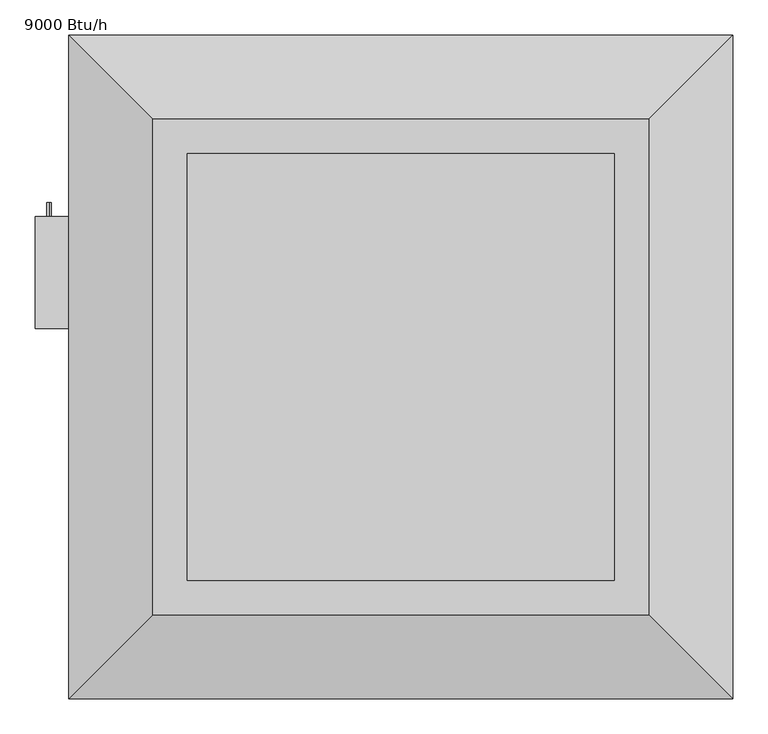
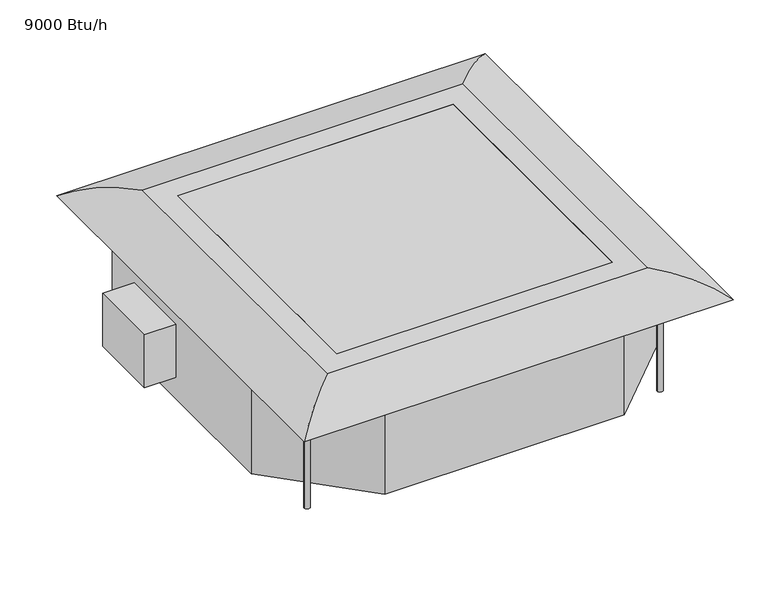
"""IFC4 building model written with IfcOpenShell, lengths in millimetres: proxy geometry, Lennox-VRF-Ceiling_Compact-Cassette-V33A-2P_Series : 9000 Btu/h."""

from ifc_helpers import new_model, si_unit, point, frame, frame_2d, origin, origin_with_axes, place, context, project, spatial, polyline, circle_curve, ellipse_curve, trimmed, segment, composite_curve, outline, extrude, source, transform, mapped, element, save
from ifc_brep_helpers import plane_surface, cylinder_surface, advanced_brep


def proxy_9000_btu_h_d08c018a(model_context):
    return source(origin(), model_context, "Body", "SolidModel", [
        extrude(outline(composite_curve([segment(trimmed(circle_curve(frame_2d((-130.0, -502.5)), 3.175), [point((-126.825, -502.5))], [point((-133.175, -502.5))], False, "CARTESIAN"), True, "CONTINUOUS"), segment(trimmed(circle_curve(frame_2d((-130.0, -502.5)), 3.175), [point((-133.175, -502.5))], [point((-126.825, -502.5))], False, "CARTESIAN"), True, "CONTINUOUS")], self_intersect=False)), frame((0.0, 214.8, 0.0), z_axis=(0.0, 1.0, 0.0), x_axis=(0.0, 0.0, 1.0)), (0.0, 0.0, 1.0), 20.0),
        extrude(outline(polyline([(-522.5, 54.8), (-522.5, 214.8), (-452.5, 214.8), (-452.5, 54.8), (-522.5, 54.8)])), frame((0.0, 0.0, -178.0), z_axis=(0.0, 0.0, 1.0), x_axis=(1.0, 0.0, 0.0)), (0.0, 0.0, 1.0), 124.0),
        extrude(outline(composite_curve([segment(trimmed(circle_curve(frame_2d((0.0, -6.35)), 6.35), [point((0.0, -12.7000001))], [point((0.0, 0.0))], False, "CARTESIAN"), True, "CONTINUOUS"), segment(trimmed(circle_curve(frame_2d((0.0, -6.35)), 6.35), [point((0.0, 0.0))], [point((0.0, -12.7000001))], False, "CARTESIAN"), True, "CONTINUOUS")], self_intersect=False)), frame((-326.2883897, 325.3070798, -146.0), z_axis=(-0.20791169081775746, 0.9781476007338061, 0.0), x_axis=(0.0, 0.0, -1.0)), (0.0, 0.0, 1.0), 50.0),
        extrude(outline(composite_curve([segment(trimmed(circle_curve(frame_2d((-155.0, 285.5)), 15.875), [point((-155.0, 301.375))], [point((-155.0, 269.625))], False, "CARTESIAN"), True, "CONTINUOUS"), segment(trimmed(circle_curve(frame_2d((-155.0, 285.5)), 15.875), [point((-155.0, 269.625))], [point((-155.0, 301.375))], False, "CARTESIAN"), True, "CONTINUOUS")], self_intersect=False)), frame((0.0, 360.7767013, 0.0), z_axis=(0.0, 1.0, 0.0), x_axis=(0.0, 0.0, 1.0)), (0.0, 0.0, 1.0), 59.7232987),
        advanced_brep(
        [(-384.15, -339.5, -21.0), (-396.85, -339.5, -21.0), (-384.15, -339.5, -264.0), (-396.85, -339.5, -264.0), (-384.15, -339.5, -41.0), (-396.85, -339.5, -41.0), (-396.85, -339.5, -47.35), (-384.15, -339.5, -47.35), (-367.9974747, -369.5, -41.0), (-341.8875034, -343.3900287, -41.0), (-391.3849781, -293.892554, -41.0), (-420.5, -323.007576, -41.0), (-420.5, -339.5, -41.0), (-390.5, -369.5, -41.0), (-367.9974747, -369.5, -47.35), (-390.5, -369.5, -47.35), (-420.5, -339.5, -47.35), (-420.5, -323.007576, -47.35), (-391.3849781, -293.892554, -47.35), (-341.8875034, -343.3900287, -47.35)],
        [
            (0, 1, circle_curve(frame((-390.5, -339.5, -21.0), z_axis=(0.0, 0.0, 1.0), x_axis=(-1.0, 0.0, 0.0)), 6.35)),
            (1, 0, circle_curve(frame((-390.5, -339.5, -21.0), z_axis=(0.0, 0.0, 1.0), x_axis=(-1.0, 0.0, 0.0)), 6.35)),
            (2, 3, circle_curve(frame((-390.5, -339.5, -264.0), z_axis=(0.0, 0.0, -1.0), x_axis=(-1.0, 0.0, 0.0)), 6.35)),
            (3, 2, circle_curve(frame((-390.5, -339.5, -264.0), z_axis=(0.0, 0.0, -1.0), x_axis=(-1.0, 0.0, 0.0)), 6.35)),
            (0, 4),
            (4, 5, circle_curve(frame((-390.5, -339.5, -41.0), z_axis=(0.0, 0.0, 1.0), x_axis=(-1.0, 0.0, 0.0)), 6.35)),
            (5, 1),
            (3, 6),
            (6, 7, circle_curve(frame((-390.5, -339.5, -47.35), z_axis=(0.0, 0.0, -1.0), x_axis=(-1.0, 0.0, 0.0)), 6.35)),
            (7, 2),
            (5, 4, circle_curve(frame((-390.5, -339.5, -41.0), z_axis=(0.0, 0.0, 1.0), x_axis=(-1.0, 0.0, 0.0)), 6.35)),
            (7, 6, circle_curve(frame((-390.5, -339.5, -47.35), z_axis=(0.0, 0.0, -1.0), x_axis=(-1.0, 0.0, 0.0)), 6.35)),
            (8, 9),
            (9, 10),
            (10, 11),
            (11, 12),
            (12, 13),
            (13, 8),
            (14, 15),
            (15, 16),
            (16, 17),
            (17, 18),
            (18, 19),
            (19, 14),
            (8, 14),
            (19, 9),
            (18, 10),
            (17, 11),
            (16, 12),
            (15, 13),
        ],
        [
            plane_surface(frame((-396.85, -339.5, -21.0), z_axis=(0.0, 0.0, 1.0), x_axis=(0.0, -1.0, 0.0))),
            plane_surface(frame((-396.85, -339.5, -264.0), z_axis=(0.0, 0.0, -1.0), x_axis=(0.0, 1.0, 0.0))),
            cylinder_surface(frame((-390.5, -339.5, -264.0), z_axis=(0.0, 0.0, 1.0), x_axis=(-1.0, 0.0, 0.0)), 6.35),
            plane_surface(frame((343.5046828, -342.2177851, -41.0), z_axis=(0.0, 0.0, 1.0), x_axis=(-0.707106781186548, -0.7071067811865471, 0.0))),
            plane_surface(frame((343.5046828, -342.2177851, -47.35), z_axis=(0.0, 0.0, -1.0), x_axis=(0.707106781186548, 0.7071067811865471, 0.0))),
            plane_surface(frame((-367.9974747, -369.5, -41.0), z_axis=(0.7071067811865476, -0.7071067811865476, 0.0), x_axis=(0.0, 0.0, -1.0))),
            plane_surface(frame((-341.8875034, -343.3900287, -41.0), z_axis=(0.7071067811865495, 0.7071067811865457, 0.0), x_axis=(0.0, 0.0, -1.0))),
            plane_surface(frame((-391.3849781, -293.892554, -41.0), z_axis=(-0.7071067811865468, 0.7071067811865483, 0.0), x_axis=(0.0, 0.0, -1.0))),
            plane_surface(frame((-420.5, -323.007576, -41.0), z_axis=(-1.0, 0.0, 0.0), x_axis=(0.0, 0.0, -1.0))),
            plane_surface(frame((-420.5, -339.5, -41.0), z_axis=(-0.7071067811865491, -0.707106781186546, 0.0), x_axis=(0.0, 0.0, -1.0))),
            plane_surface(frame((-390.5, -369.5, -41.0), z_axis=(0.0, -1.0, 0.0), x_axis=(0.0, 0.0, -1.0))),
        ],
        [
            (0, [[1, 2]]),
            (1, [[3, 4]]),
            (2, [[-1, 5, 6, 7]]),
            (2, [[-4, 8, 9, 10]]),
            (2, [[-2, -7, 11, -5]]),
            (2, [[-3, -10, 12, -8]]),
            (3, [[13, 14, 15, 16, 17, 18], [-6, -11]]),
            (4, [[19, 20, 21, 22, 23, 24], [-9, -12]]),
            (5, [[-13, 25, -24, 26]]),
            (6, [[-14, -26, -23, 27]]),
            (7, [[-15, -27, -22, 28]]),
            (8, [[-16, -28, -21, 29]]),
            (9, [[-17, -29, -20, 30]]),
            (10, [[-18, -30, -19, -25]]),
        ],
    ),
        advanced_brep(
        [(396.85, -339.5, -21.0), (384.15, -339.5, -21.0), (396.85, -339.5, -264.0), (384.15, -339.5, -264.0), (396.85, -339.5, -41.0), (384.15, -339.5, -41.0), (384.15, -339.5, -47.35), (396.85, -339.5, -47.35), (393.0021575, -292.7203104, -41.0), (343.5046828, -342.2177851, -41.0), (370.7868978, -369.5, -41.0), (386.933146, -369.5, -41.0), (420.5, -335.933146, -41.0), (420.5, -320.2181529, -41.0), (393.0021575, -292.7203104, -47.35), (420.5, -320.2181529, -47.35), (420.5, -335.933146, -47.35), (386.933146, -369.5, -47.35), (370.7868978, -369.5, -47.35), (343.5046828, -342.2177851, -47.35)],
        [
            (0, 1, circle_curve(frame((390.5, -339.5, -21.0), z_axis=(0.0, 0.0, 1.0), x_axis=(-1.0, 0.0, 0.0)), 6.35)),
            (1, 0, circle_curve(frame((390.5, -339.5, -21.0), z_axis=(0.0, 0.0, 1.0), x_axis=(-1.0, 0.0, 0.0)), 6.35)),
            (2, 3, circle_curve(frame((390.5, -339.5, -264.0), z_axis=(0.0, 0.0, -1.0), x_axis=(-1.0, 0.0, 0.0)), 6.35)),
            (3, 2, circle_curve(frame((390.5, -339.5, -264.0), z_axis=(0.0, 0.0, -1.0), x_axis=(-1.0, 0.0, 0.0)), 6.35)),
            (0, 4),
            (4, 5, circle_curve(frame((390.5, -339.5, -41.0), z_axis=(0.0, 0.0, 1.0), x_axis=(-1.0, 0.0, 0.0)), 6.35)),
            (5, 1),
            (3, 6),
            (6, 7, circle_curve(frame((390.5, -339.5, -47.35), z_axis=(0.0, 0.0, -1.0), x_axis=(-1.0, 0.0, 0.0)), 6.35)),
            (7, 2),
            (5, 4, circle_curve(frame((390.5, -339.5, -41.0), z_axis=(0.0, 0.0, 1.0), x_axis=(-1.0, 0.0, 0.0)), 6.35)),
            (7, 6, circle_curve(frame((390.5, -339.5, -47.35), z_axis=(0.0, 0.0, -1.0), x_axis=(-1.0, 0.0, 0.0)), 6.35)),
            (8, 9),
            (9, 10),
            (10, 11),
            (11, 12),
            (12, 13),
            (13, 8),
            (14, 15),
            (15, 16),
            (16, 17),
            (17, 18),
            (18, 19),
            (19, 14),
            (8, 14),
            (19, 9),
            (18, 10),
            (17, 11),
            (16, 12),
            (15, 13),
        ],
        [
            plane_surface(frame((-396.85, -339.5, -21.0), z_axis=(0.0, 0.0, 1.0), x_axis=(0.0, -1.0, 0.0))),
            plane_surface(frame((-396.85, -339.5, -264.0), z_axis=(0.0, 0.0, -1.0), x_axis=(0.0, 1.0, 0.0))),
            cylinder_surface(frame((390.5, -339.5, -229.0), z_axis=(0.0, 0.0, 1.0), x_axis=(-1.0, 0.0, 0.0)), 6.35),
            plane_surface(frame((343.5046828, -342.2177851, -41.0), z_axis=(0.0, 0.0, 1.0), x_axis=(-0.707106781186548, -0.7071067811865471, 0.0))),
            plane_surface(frame((343.5046828, -342.2177851, -47.35), z_axis=(0.0, 0.0, -1.0), x_axis=(0.707106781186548, 0.7071067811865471, 0.0))),
            plane_surface(frame((393.0021575, -292.7203104, -41.0), z_axis=(-0.7071067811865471, 0.707106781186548, 0.0), x_axis=(0.0, 0.0, -1.0))),
            plane_surface(frame((343.5046828, -342.2177851, -41.0), z_axis=(-0.7071067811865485, -0.7071067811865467, 0.0), x_axis=(0.0, 0.0, -1.0))),
            plane_surface(frame((370.7868978, -369.5, -41.0), z_axis=(0.0, -1.0, 0.0), x_axis=(0.0, 0.0, -1.0))),
            plane_surface(frame((386.933146, -369.5, -41.0), z_axis=(0.7071067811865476, -0.7071067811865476, 0.0), x_axis=(0.0, 0.0, -1.0))),
            plane_surface(frame((420.5, -335.933146, -41.0), z_axis=(1.0, 0.0, 0.0), x_axis=(0.0, 0.0, -1.0))),
            plane_surface(frame((420.5, -320.2181529, -41.0), z_axis=(0.7071067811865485, 0.7071067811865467, 0.0), x_axis=(0.0, 0.0, -1.0))),
        ],
        [
            (0, [[1, 2]]),
            (1, [[3, 4]]),
            (2, [[-1, 5, 6, 7]]),
            (2, [[-4, 8, 9, 10]]),
            (2, [[-2, -7, 11, -5]]),
            (2, [[-3, -10, 12, -8]]),
            (3, [[13, 14, 15, 16, 17, 18], [-6, -11]]),
            (4, [[19, 20, 21, 22, 23, 24], [-9, -12]]),
            (5, [[-13, 25, -24, 26]]),
            (6, [[-14, -26, -23, 27]]),
            (7, [[-15, -27, -22, 28]]),
            (8, [[-16, -28, -21, 29]]),
            (9, [[-17, -29, -20, 30]]),
            (10, [[-18, -30, -19, -25]]),
        ],
    ),
        advanced_brep(
        [(396.85, 339.5, -21.0), (384.15, 339.5, -21.0), (396.85, 339.5, -264.0), (384.15, 339.5, -264.0), (396.85, 339.5, -41.0), (384.15, 339.5, -41.0), (384.15, 339.5, -47.35), (396.85, 339.5, -47.35), (344.3279755, 342.8254501, -41.0), (393.8254501, 293.3279755, -41.0), (420.5, 320.0025253, -41.0), (420.5, 339.5, -41.0), (390.5, 369.5, -41.0), (371.0025253, 369.5, -41.0), (344.3279755, 342.8254501, -47.35), (371.0025253, 369.5, -47.35), (390.5, 369.5, -47.35), (420.5, 339.5, -47.35), (420.5, 320.0025253, -47.35), (393.8254501, 293.3279755, -47.35)],
        [
            (0, 1, circle_curve(frame((390.5, 339.5, -21.0), z_axis=(0.0, 0.0, 1.0), x_axis=(-1.0, 0.0, 0.0)), 6.35)),
            (1, 0, circle_curve(frame((390.5, 339.5, -21.0), z_axis=(0.0, 0.0, 1.0), x_axis=(-1.0, 0.0, 0.0)), 6.35)),
            (2, 3, circle_curve(frame((390.5, 339.5, -264.0), z_axis=(0.0, 0.0, -1.0), x_axis=(-1.0, 0.0, 0.0)), 6.35)),
            (3, 2, circle_curve(frame((390.5, 339.5, -264.0), z_axis=(0.0, 0.0, -1.0), x_axis=(-1.0, 0.0, 0.0)), 6.35)),
            (0, 4),
            (4, 5, circle_curve(frame((390.5, 339.5, -41.0), z_axis=(0.0, 0.0, 1.0), x_axis=(-1.0, 0.0, 0.0)), 6.35)),
            (5, 1),
            (3, 6),
            (6, 7, circle_curve(frame((390.5, 339.5, -47.35), z_axis=(0.0, 0.0, -1.0), x_axis=(-1.0, 0.0, 0.0)), 6.35)),
            (7, 2),
            (5, 4, circle_curve(frame((390.5, 339.5, -41.0), z_axis=(0.0, 0.0, 1.0), x_axis=(-1.0, 0.0, 0.0)), 6.35)),
            (7, 6, circle_curve(frame((390.5, 339.5, -47.35), z_axis=(0.0, 0.0, -1.0), x_axis=(-1.0, 0.0, 0.0)), 6.35)),
            (8, 9),
            (9, 10),
            (10, 11),
            (11, 12),
            (12, 13),
            (13, 8),
            (14, 15),
            (15, 16),
            (16, 17),
            (17, 18),
            (18, 19),
            (19, 14),
            (8, 14),
            (19, 9),
            (18, 10),
            (17, 11),
            (16, 12),
            (15, 13),
        ],
        [
            plane_surface(frame((-396.85, -339.5, -21.0), z_axis=(0.0, 0.0, 1.0), x_axis=(0.0, -1.0, 0.0))),
            plane_surface(frame((-396.85, -339.5, -264.0), z_axis=(0.0, 0.0, -1.0), x_axis=(0.0, 1.0, 0.0))),
            cylinder_surface(frame((390.5, 339.5, -229.0), z_axis=(0.0, 0.0, 1.0), x_axis=(-1.0, 0.0, 0.0)), 6.35),
            plane_surface(frame((343.5046828, -342.2177851, -41.0), z_axis=(0.0, 0.0, 1.0), x_axis=(-0.707106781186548, -0.7071067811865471, 0.0))),
            plane_surface(frame((343.5046828, -342.2177851, -47.35), z_axis=(0.0, 0.0, -1.0), x_axis=(0.707106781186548, 0.7071067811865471, 0.0))),
            plane_surface(frame((344.3279755, 342.8254501, -41.0), z_axis=(-0.707106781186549, -0.7071067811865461, 0.0), x_axis=(0.0, 0.0, -1.0))),
            plane_surface(frame((393.8254501, 293.3279755, -41.0), z_axis=(0.7071067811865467, -0.7071067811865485, 0.0), x_axis=(0.0, 0.0, -1.0))),
            plane_surface(frame((420.5, 320.0025253, -41.0), z_axis=(1.0, 0.0, 0.0), x_axis=(0.0, 0.0, -1.0))),
            plane_surface(frame((420.5, 339.5, -41.0), z_axis=(0.7071067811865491, 0.7071067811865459, 0.0), x_axis=(0.0, 0.0, -1.0))),
            plane_surface(frame((390.5, 369.5, -41.0), z_axis=(0.0, 1.0, 0.0), x_axis=(0.0, 0.0, -1.0))),
            plane_surface(frame((371.0025253, 369.5, -41.0), z_axis=(-0.7071067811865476, 0.7071067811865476, 0.0), x_axis=(0.0, 0.0, -1.0))),
        ],
        [
            (0, [[1, 2]]),
            (1, [[3, 4]]),
            (2, [[-1, 5, 6, 7]]),
            (2, [[-4, 8, 9, 10]]),
            (2, [[-2, -7, 11, -5]]),
            (2, [[-3, -10, 12, -8]]),
            (3, [[13, 14, 15, 16, 17, 18], [-6, -11]]),
            (4, [[19, 20, 21, 22, 23, 24], [-9, -12]]),
            (5, [[-13, 25, -24, 26]]),
            (6, [[-14, -26, -23, 27]]),
            (7, [[-15, -27, -22, 28]]),
            (8, [[-16, -28, -21, 29]]),
            (9, [[-17, -29, -20, 30]]),
            (10, [[-18, -30, -19, -25]]),
        ],
    ),
        advanced_brep(
        [(-384.15, 339.5, -21.0), (-396.85, 339.5, -21.0), (-384.15, 339.5, -264.0), (-396.85, 339.5, -264.0), (-384.15, 339.5, -41.0), (-396.85, 339.5, -41.0), (-396.85, 339.5, -47.35), (-384.15, 339.5, -47.35), (-420.5, 356.3988136, -41.0), (-420.5, 305.2817838, -41.0), (-348.147749, 320.6607295, -41.0), (-355.2974559, 354.2974559, -41.0), (-368.460212, 367.460212, -41.0), (-420.5, 356.3988136, -47.35), (-368.460212, 367.460212, -47.35), (-355.2974559, 354.2974559, -47.35), (-348.147749, 320.6607295, -47.35), (-420.5, 305.2817838, -47.35)],
        [
            (0, 1, circle_curve(frame((-390.5, 339.5, -21.0), z_axis=(0.0, 0.0, 1.0), x_axis=(-1.0, 0.0, 0.0)), 6.35)),
            (1, 0, circle_curve(frame((-390.5, 339.5, -21.0), z_axis=(0.0, 0.0, 1.0), x_axis=(-1.0, 0.0, 0.0)), 6.35)),
            (2, 3, circle_curve(frame((-390.5, 339.5, -264.0), z_axis=(0.0, 0.0, -1.0), x_axis=(-1.0, 0.0, 0.0)), 6.35)),
            (3, 2, circle_curve(frame((-390.5, 339.5, -264.0), z_axis=(0.0, 0.0, -1.0), x_axis=(-1.0, 0.0, 0.0)), 6.35)),
            (0, 4),
            (4, 5, circle_curve(frame((-390.5, 339.5, -41.0), z_axis=(0.0, 0.0, 1.0), x_axis=(-1.0, 0.0, 0.0)), 6.35)),
            (5, 1),
            (3, 6),
            (6, 7, circle_curve(frame((-390.5, 339.5, -47.35), z_axis=(0.0, 0.0, -1.0), x_axis=(-1.0, 0.0, 0.0)), 6.35)),
            (7, 2),
            (5, 4, circle_curve(frame((-390.5, 339.5, -41.0), z_axis=(0.0, 0.0, 1.0), x_axis=(-1.0, 0.0, 0.0)), 6.35)),
            (7, 6, circle_curve(frame((-390.5, 339.5, -47.35), z_axis=(0.0, 0.0, -1.0), x_axis=(-1.0, 0.0, 0.0)), 6.35)),
            (8, 9),
            (9, 10),
            (10, 11),
            (11, 12),
            (12, 8),
            (13, 14),
            (14, 15),
            (15, 16),
            (16, 17),
            (17, 13),
            (8, 13),
            (17, 9),
            (16, 10),
            (15, 11),
            (14, 12),
        ],
        [
            plane_surface(frame((-396.85, -339.5, -21.0), z_axis=(0.0, 0.0, 1.0), x_axis=(0.0, -1.0, 0.0))),
            plane_surface(frame((-396.85, -339.5, -264.0), z_axis=(0.0, 0.0, -1.0), x_axis=(0.0, 1.0, 0.0))),
            cylinder_surface(frame((-390.5, 339.5, -229.0), z_axis=(0.0, 0.0, 1.0), x_axis=(-1.0, 0.0, 0.0)), 6.35),
            plane_surface(frame((343.5046828, -342.2177851, -41.0), z_axis=(0.0, 0.0, 1.0), x_axis=(-0.707106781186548, -0.7071067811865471, 0.0))),
            plane_surface(frame((343.5046828, -342.2177851, -47.35), z_axis=(0.0, 0.0, -1.0), x_axis=(0.707106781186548, 0.7071067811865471, 0.0))),
            plane_surface(frame((-420.5, 356.3988136, -41.0), z_axis=(-1.0, 0.0, 0.0), x_axis=(0.0, 0.0, -1.0))),
            plane_surface(frame((-420.5, 305.2817838, -41.0), z_axis=(0.2079116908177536, -0.9781476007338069, 0.0), x_axis=(0.0, 0.0, -1.0))),
            plane_surface(frame((-348.147749, 320.6607295, -41.0), z_axis=(0.9781476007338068, 0.20791169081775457, 0.0), x_axis=(0.0, 0.0, -1.0))),
            plane_surface(frame((-355.2974559, 354.2974559, -41.0), z_axis=(0.7071067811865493, 0.7071067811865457, 0.0), x_axis=(0.0, 0.0, -1.0))),
            plane_surface(frame((-368.460212, 367.460212, -41.0), z_axis=(-0.20791169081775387, 0.9781476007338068, 0.0), x_axis=(0.0, 0.0, -1.0))),
        ],
        [
            (0, [[1, 2]]),
            (1, [[3, 4]]),
            (2, [[-1, 5, 6, 7]]),
            (2, [[-4, 8, 9, 10]]),
            (2, [[-2, -7, 11, -5]]),
            (2, [[-3, -10, 12, -8]]),
            (3, [[13, 14, 15, 16, 17], [-6, -11]]),
            (4, [[18, 19, 20, 21, 22], [-9, -12]]),
            (5, [[-13, 23, -22, 24]]),
            (6, [[-14, -24, -21, 25]]),
            (7, [[-15, -25, -20, 26]]),
            (8, [[-16, -26, -19, 27]]),
            (9, [[-17, -27, -18, -23]]),
        ],
    ),
        extrude(outline(polyline([(-178.942494, 420.5), (206.5140403, 420.5), (246.3767243, 360.7767013), (326.3767243, 360.7767013), (452.5, 234.6534256), (452.5, -233.2224679), (265.2224679, -420.5), (-264.7775321, -420.5), (-452.5, -232.7775321), (-452.5, 298.4799738), (-217.7811876, 348.3709976), (-178.942494, 420.5)])), frame((0.0, 0.0, -229.0), z_axis=(0.0, 0.0, 1.0), x_axis=(1.0, 0.0, 0.0)), (0.0, 0.0, 1.0), 229.0),
        advanced_brep(
        [(-304.8, 304.8, 0.0), (-304.8, 304.8, 44.0), (-304.8, -304.8, 44.0), (-304.8, -304.8, 0.0), (-354.8, 354.8, 44.0), (-474.5, 474.5, 0.0), (-474.5, -474.5, 0.0), (-354.8, -354.8, 44.0), (304.8, -304.8, 44.0), (304.8, -304.8, 0.0), (474.5, -474.5, 0.0), (354.8, -354.8, 44.0), (304.8, 304.8, 44.0), (304.8, 304.8, 0.0), (474.5, 474.5, 0.0), (354.8, 354.8, 44.0)],
        [
            (0, 1),
            (1, 2),
            (2, 3),
            (3, 0),
            (4, 5, ellipse_curve(frame((-354.8, 354.8, -140.8192045), z_axis=(-0.7071067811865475, -0.7071067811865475, 0.0), x_axis=(-0.7071067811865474, 0.7071067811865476, 0.0)), 261.3738257, 184.8192045)),
            (5, 6),
            (6, 7, ellipse_curve(frame((-354.8, -354.8, -140.8192045), z_axis=(-0.7071067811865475, 0.7071067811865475, 0.0), x_axis=(0.7071067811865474, 0.7071067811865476, 0.0)), 261.3738257, 184.8192045)),
            (7, 4),
            (2, 8),
            (8, 9),
            (9, 3),
            (6, 10),
            (10, 11, ellipse_curve(frame((354.8, -354.8, -140.8192045), z_axis=(-0.7071067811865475, -0.7071067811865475, 0.0), x_axis=(-0.7071067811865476, 0.7071067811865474, 0.0)), 261.3738257, 184.8192045)),
            (11, 7),
            (8, 12),
            (12, 13),
            (13, 9),
            (10, 14),
            (14, 15, ellipse_curve(frame((354.8, 354.8, -140.8192045), z_axis=(0.7071067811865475, -0.7071067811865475, 0.0), x_axis=(-0.7071067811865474, -0.7071067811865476, 0.0)), 261.3738257, 184.8192045)),
            (15, 11),
            (12, 1),
            (0, 13),
            (5, 14),
            (4, 15),
        ],
        [
            plane_surface(frame((-304.8, 304.8, 44.0), z_axis=(1.0, 0.0, 0.0), x_axis=(0.0, -1.0, 0.0))),
            cylinder_surface(frame((-354.8, 304.8, -140.8192045), z_axis=(0.0, 1.0, 0.0), x_axis=(1.0, 0.0, 0.0)), 184.8192045),
            plane_surface(frame((-304.8, -304.8, 44.0), z_axis=(0.0, 1.0, 0.0), x_axis=(1.0, 0.0, 0.0))),
            cylinder_surface(frame((-304.8, -354.8, -140.8192045), z_axis=(-1.0, 0.0, 0.0), x_axis=(0.0, 1.0, 0.0)), 184.8192045),
            plane_surface(frame((304.8, -304.8, 44.0), z_axis=(-1.0, 0.0, 0.0), x_axis=(0.0, 1.0, 0.0))),
            cylinder_surface(frame((354.8, -304.8, -140.8192045), z_axis=(0.0, -1.0, 0.0), x_axis=(-1.0, 0.0, 0.0)), 184.8192045),
            plane_surface(frame((304.8, 304.8, 44.0), z_axis=(0.0, -1.0, 0.0), x_axis=(-1.0, 0.0, 0.0))),
            plane_surface(frame((304.8, 304.8, 0.0), z_axis=(0.0, 0.0, -1.0), x_axis=(-1.0, 0.0, 0.0))),
            cylinder_surface(frame((304.8, 354.8, -140.8192045), z_axis=(1.0, 0.0, 0.0), x_axis=(0.0, -1.0, 0.0)), 184.8192045),
            plane_surface(frame((354.8, 354.8, 44.0), z_axis=(0.0, 0.0, 1.0), x_axis=(-1.0, 0.0, 0.0))),
        ],
        [
            (0, [[1, 2, 3, 4]]),
            (1, [[5, 6, 7, 8]]),
            (2, [[-3, 9, 10, 11]]),
            (3, [[-7, 12, 13, 14]]),
            (4, [[-10, 15, 16, 17]]),
            (5, [[-13, 18, 19, 20]]),
            (6, [[-16, 21, -1, 22]]),
            (7, [[23, -18, -12, -6], [-11, -17, -22, -4]]),
            (8, [[-19, -23, -5, 24]]),
            (9, [[-14, -20, -24, -8], [-21, -15, -9, -2]]),
        ],
    ),
        extrude(outline(polyline([(304.8, 304.8), (304.8, -304.8), (-304.8, -304.8), (-304.8, 304.8), (304.8, 304.8)])), origin_with_axes(), (0.0, 0.0, 1.0), 44.0),
    ])


if __name__ == "__main__":
    model = new_model("IFC4")
    model_context = context("Model", 3, world=origin())
    ifc_project = project(units=[si_unit("LENGTHUNIT", "METRE", prefix="MILLI")], contexts=[model_context])
    site = spatial("IfcSite", under=ifc_project)
    building = spatial("IfcBuilding", under=site)
    placement = place(None, origin())
    proxy_9000_btu_h_shape = proxy_9000_btu_h_d08c018a(model_context)
    element("IfcBuildingElementProxy", 1, Name="Lennox-VRF-Ceiling_Compact-Cassette-V33A-2P_Series : 9000 Btu/h", ObjectType="Lennox-VRF-Ceiling_Compact-Cassette-V33A-2P_Series : 9000 Btu/h", at=placement, inside=building, context=model_context, shape_type="MappedRepresentation", body=[
        mapped(proxy_9000_btu_h_shape, transform((0.0, 0.0, 0.0), x_axis=(1.0, 0.0, 0.0), y_axis=(0.0, 1.0, 0.0), z_axis=(0.0, 0.0, 1.0))),
    ])
    save(model, "model.ifc")
